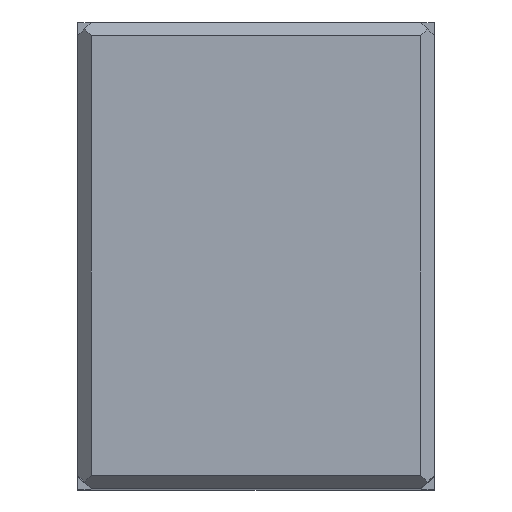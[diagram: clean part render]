
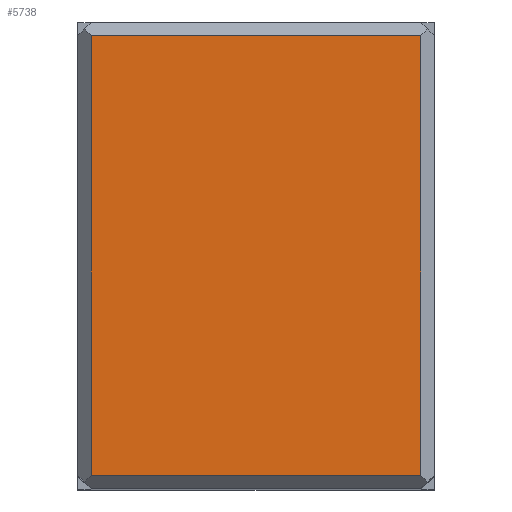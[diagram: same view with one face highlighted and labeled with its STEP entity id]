
A CAD part, top view. The second image highlights one B-rep face of the part: STEP entity #5738.
In plain terms, the highlighted planar face has unit normal (0, 0, 1).
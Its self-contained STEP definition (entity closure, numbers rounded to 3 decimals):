
#87 = CARTESIAN_POINT ( 'NONE',  ( -9.7, 12.95, 35. ) ) ;
#254 = VECTOR ( 'NONE', #5938, 1000. ) ;
#412 = EDGE_CURVE ( 'NONE', #3203, #717, #6177, .T. ) ;
#717 = VERTEX_POINT ( 'NONE', #1529 ) ;
#1387 = EDGE_LOOP ( 'NONE', ( #4282, #2599, #1849, #4439 ) ) ;
#1443 = EDGE_CURVE ( 'NONE', #6353, #3203, #4855, .T. ) ;
#1529 = CARTESIAN_POINT ( 'NONE',  ( -9.7, -12.95, 35. ) ) ;
#1849 = ORIENTED_EDGE ( 'NONE', *, *, #412, .T. ) ;
#1996 = EDGE_CURVE ( 'NONE', #717, #2557, #3306, .T. ) ;
#2031 = DIRECTION ( 'NONE',  ( 0., 0., 1. ) ) ;
#2069 = CARTESIAN_POINT ( 'NONE',  ( 0., 0., 35. ) ) ;
#2497 = CARTESIAN_POINT ( 'NONE',  ( -10.5, 12.95, 35. ) ) ;
#2557 = VERTEX_POINT ( 'NONE', #3548 ) ;
#2599 = ORIENTED_EDGE ( 'NONE', *, *, #1443, .T. ) ;
#2627 = CARTESIAN_POINT ( 'NONE',  ( 10.5, -12.95, 35. ) ) ;
#2721 = CARTESIAN_POINT ( 'NONE',  ( -9.7, -13.75, 35. ) ) ;
#3203 = VERTEX_POINT ( 'NONE', #87 ) ;
#3306 = LINE ( 'NONE', #2627, #5454 ) ;
#3548 = CARTESIAN_POINT ( 'NONE',  ( 9.7, -12.95, 35. ) ) ;
#3657 = CARTESIAN_POINT ( 'NONE',  ( 9.7, 13.75, 35. ) ) ;
#4282 = ORIENTED_EDGE ( 'NONE', *, *, #4836, .T. ) ;
#4316 = FACE_OUTER_BOUND ( 'NONE', #1387, .T. ) ;
#4439 = ORIENTED_EDGE ( 'NONE', *, *, #1996, .T. ) ;
#4488 = PLANE ( 'NONE',  #6420 ) ;
#4564 = LINE ( 'NONE', #3657, #5255 ) ;
#4664 = DIRECTION ( 'NONE',  ( 1., 0., 0. ) ) ;
#4787 = VECTOR ( 'NONE', #5124, 1000. ) ;
#4836 = EDGE_CURVE ( 'NONE', #2557, #6353, #4564, .T. ) ;
#4855 = LINE ( 'NONE', #2497, #254 ) ;
#5124 = DIRECTION ( 'NONE',  ( 0., -1., 0. ) ) ;
#5255 = VECTOR ( 'NONE', #6186, 1000. ) ;
#5454 = VECTOR ( 'NONE', #4664, 1000. ) ;
#5468 = CARTESIAN_POINT ( 'NONE',  ( 9.7, 12.95, 35. ) ) ;
#5738 = ADVANCED_FACE ( 'NONE', ( #4316 ), #4488, .T. ) ;
#5938 = DIRECTION ( 'NONE',  ( -1., 0., 0. ) ) ;
#5972 = DIRECTION ( 'NONE',  ( 1., 0., 0. ) ) ;
#6177 = LINE ( 'NONE', #2721, #4787 ) ;
#6186 = DIRECTION ( 'NONE',  ( 0., 1., 0. ) ) ;
#6353 = VERTEX_POINT ( 'NONE', #5468 ) ;
#6420 = AXIS2_PLACEMENT_3D ( 'NONE', #2069, #2031, #5972 ) ;
